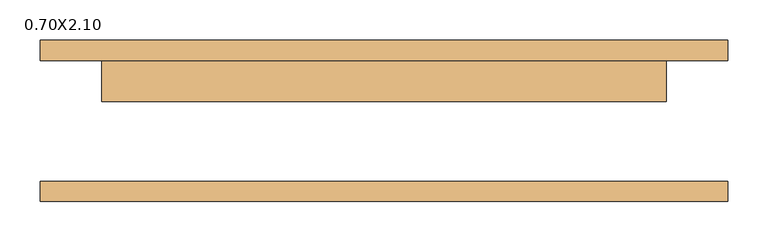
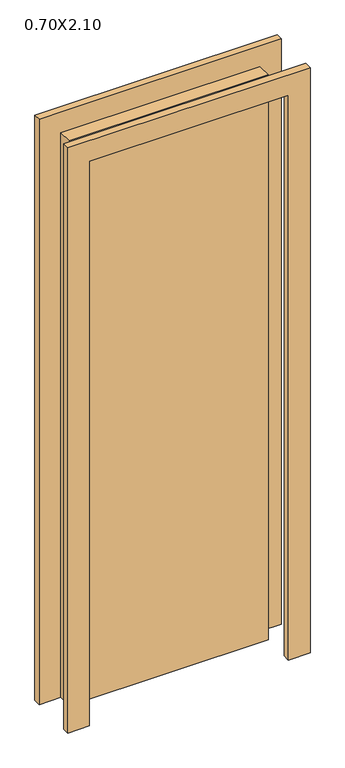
"""IFC4 building model written with IfcOpenShell, lengths in millimetres: door geometry, M_Folha única : 0.70X2.10."""

from ifc_helpers import new_model, si_unit, frame, origin, origin_with_axes, place, context, project, spatial, polyline, outline, extrude, source, transform, mapped, element, save


def door_0_70x2_10_1d7fae46(model_context):
    return source(origin(), model_context, "Body", "SweptSolid", [
        extrude(outline(polyline([(2176.0, -426.0), (0.0, -426.0), (0.0, -350.0), (2100.0, -350.0), (2100.0, 350.0), (0.0, 350.0), (0.0, 426.0), (2176.0, 426.0), (2176.0, -426.0)])), frame((0.0, 75.0, 0.0), z_axis=(0.0, 1.0, 0.0), x_axis=(0.0, 0.0, 1.0)), (0.0, 0.0, 1.0), 25.0),
        extrude(outline(polyline([(2176.0, 426.0), (2176.0, -426.0), (0.0, -426.0), (0.0, -350.0), (2100.0, -350.0), (2100.0, 350.0), (0.0, 350.0), (0.0, 426.0), (2176.0, 426.0)])), frame((0.0, -100.0, 0.0), z_axis=(0.0, 1.0, 0.0), x_axis=(0.0, 0.0, 1.0)), (0.0, 0.0, 1.0), 25.0),
        extrude(outline(polyline([(350.0, 24.0), (-350.0, 24.0), (-350.0, 75.0), (350.0, 75.0), (350.0, 24.0)])), origin_with_axes(), (0.0, 0.0, 1.0), 2100.0),
    ])


if __name__ == "__main__":
    model = new_model("IFC4")
    model_context = context("Model", 3, world=origin())
    ifc_project = project(units=[si_unit("LENGTHUNIT", "METRE", prefix="MILLI")], contexts=[model_context])
    site = spatial("IfcSite", under=ifc_project)
    building = spatial("IfcBuilding", under=site)
    placement = place(None, origin())
    door_0_70x2_10_shape = door_0_70x2_10_1d7fae46(model_context)
    element("IfcDoor", 1, ObjectType="M_Folha única : 0.70X2.10", at=placement, inside=building, context=model_context, shape_type="MappedRepresentation", body=[
        mapped(door_0_70x2_10_shape, transform((0.0, 0.0, 0.0), x_axis=(1.0, 0.0, 0.0), y_axis=(0.0, 1.0, 0.0), z_axis=(0.0, 0.0, 1.0))),
    ])
    save(model, "model.ifc")
